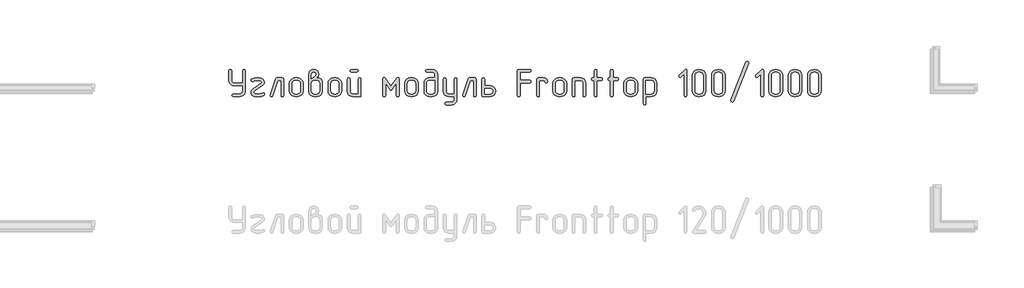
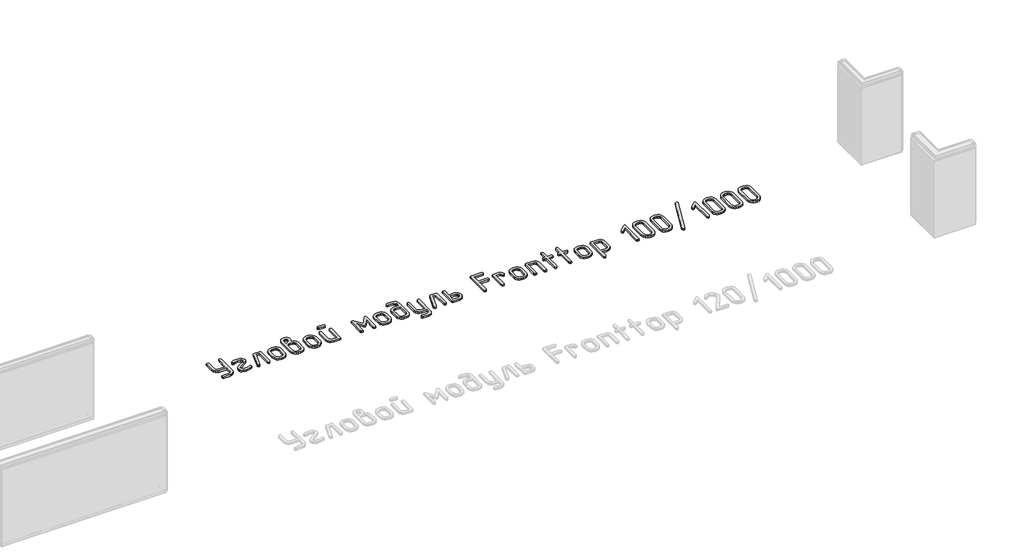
# One storey, part 34 of 37: 1 proxy.
"""IFC4 building model written with IfcOpenShell, lengths in millimetres."""

from ifc_helpers import new_model, si_unit, origin, origin_with_axes, place, context, project, spatial, polyline, outline, extrude, element, save

model = new_model("IFC4")

# Units and contexts
model_context = context("Model", 3, world=origin())
ifc_project = project(units=[si_unit("LENGTHUNIT", "METRE", prefix="MILLI")], contexts=[model_context])

# Site, building, storey
site = spatial("IfcSite", under=ifc_project)
building = spatial("IfcBuilding", under=site)
storey = spatial("IfcBuildingStorey", under=building, Name="Этаж 01", Elevation=0.0)

# Proxy
placement = place(None, origin())
element("IfcBuildingElementProxy", 1, Name="300 мм ГОСТ 2.304", ObjectType="300 мм ГОСТ 2.304", at=placement, inside=storey, context=model_context, shape_type="SweptSolid", body=[
    extrude(outline(polyline([(64282.5947081, -19108.7261154), (64192.9398643, -19108.7261154), (64169.869135, -19104.3522505), (64150.5152523, -19091.2306559), (64137.3936577, -19071.8767732), (64133.0197928, -19048.8060439), (64133.0197928, -18944.2838139), (64137.4124296, -18933.1332743), (64148.3377058, -18928.9659009), (64158.6247356, -18932.9080109), (64163.205092, -18944.2838139), (64163.205092, -19048.8060439), (64165.3357086, -19060.4540402), (64171.7275583, -19070.0183499), (64181.2918679, -19076.4101996), (64192.9398643, -19078.5408162), (64282.5947081, -19078.5408162), (64282.5947081, -18944.2838139), (64286.949801, -18933.1332743), (64297.4620942, -18928.9659009), (64307.9368436, -18932.9080109), (64312.3294804, -18944.2838139), (64312.3294804, -19168.19566), (64307.9556155, -19191.6042844), (64294.8340209, -19211.0707988), (64275.8180333, -19223.8544983), (64252.8599358, -19228.1157314), (64178.0724781, -19228.1157314), (64167.147202, -19223.7606385), (64163.205092, -19213.2483453), (64166.9219385, -19202.736052), (64178.0724781, -19198.3809591), (64252.8599358, -19198.3809591), (64264.2263528, -19196.1940267), (64273.8469783, -19189.6332294), (64280.4077756, -19179.8999722), (64282.5947081, -19168.19566), (64282.5947081, -19108.7261154)])), origin_with_axes(), (0.0, 0.0, 1.0), 20.0),
    extrude(outline(polyline([(64514.9914765, -19214.524838), (64485.4444237, -19225.0746752), (64451.6173658, -19228.5662583), (64430.8180428, -19227.4774851), (64413.0973199, -19224.5866044), (64396.8408093, -19219.4524755), (64384.8643037, -19209.3062353), (64377.4869265, -19195.6496401), (64375.0278008, -19179.984446), (64378.9699108, -19160.7619669), (64391.2467675, -19144.618088), (64486.5331969, -19078.991343), (64491.4139045, -19069.8306304), (64487.5844263, -19060.4071103), (64476.0959915, -19054.0621905), (64442.3815653, -19049.7070976), (64416.2510079, -19052.4290307), (64397.32888, -19060.5948299), (64388.1681673, -19064.1239569), (64377.693418, -19059.5436005), (64373.3007812, -19048.355517), (64379.4579815, -19037.0172579), (64408.0664367, -19024.777945), (64445.0096386, -19020.4228521), (64450.2657853, -19020.4228521), (64479.1370478, -19023.9144352), (64501.85111, -19033.7509382), (64516.7184961, -19049.0313073), (64521.9746427, -19068.9295767), (64517.7134096, -19086.6315276), (64504.9297101, -19102.193476), (64409.5681929, -19168.19566), (64404.3871341, -19179.6090069), (64408.1039806, -19189.8584928), (64417.9029396, -19195.7528858), (64434.3096259, -19197.5174493), (64451.9928049, -19198.3809591), (64478.4612575, -19196.2034127), (64501.0251441, -19187.8686659), (64508.4588371, -19186.1416463), (64519.1588499, -19190.7220026), (64523.3262233, -19201.9100861), (64521.2425366, -19209.1936036), (64514.9914765, -19214.524838)])), origin_with_axes(), (0.0, 0.0, 1.0), 20.0),
    extrude(outline(polyline([(64734.3229662, -19213.2483453), (64730.1555928, -19224.3988849), (64719.45558, -19228.1157314), (64708.9432868, -19224.1736215), (64704.5881939, -19213.2483453), (64704.5881939, -19048.8060439), (64670.0478018, -19048.8060439), (64614.0322964, -19218.0539651), (64608.5884303, -19225.4876581), (64600.5164908, -19228.1157314), (64589.7789341, -19224.1736215), (64585.1985778, -19213.6988721), (64586.0996315, -19208.4427255), (64645.1186493, -19029.133038), (64650.4498837, -19021.5867132), (64659.5355086, -19019.0712716), (64719.45558, -19019.0712716), (64730.6061197, -19022.7881181), (64734.3229662, -19033.9386577), (64734.3229662, -19213.2483453)])), origin_with_axes(), (0.0, 0.0, 1.0), 20.0),
    extrude(outline(polyline([(64945.7702359, -19162.4889865), (64940.9646162, -19187.9812976), (64926.5477569, -19209.3437792), (64905.5231704, -19223.4227434), (64880.143491, -19228.1157314), (64862.1975047, -19228.1157314), (64836.7615094, -19223.4227434), (64815.4177998, -19209.3437792), (64801.0009405, -19187.9812976), (64796.1953207, -19162.4889865), (64796.1953207, -19084.6980165), (64801.0009405, -19059.5436005), (64815.4177998, -19038.2937506), (64837.1744924, -19023.8768913), (64862.1975047, -19019.0712716), (64880.143491, -19019.0712716), (64905.288521, -19023.8862773), (64926.510213, -19038.3312945), (64940.9552302, -19059.5529865), (64945.7702359, -19084.6980165), (64945.7702359, -19162.4889865)]), holes=[polyline([(64916.0354636, -19162.4889865), (64916.0354636, -19084.6980165), (64913.4073903, -19070.9194036), (64905.5231704, -19059.3183371), (64893.9221039, -19051.4341172), (64880.143491, -19048.8060439), (64862.1975047, -19048.8060439), (64848.4282777, -19051.4341172), (64836.8553692, -19059.3183371), (64828.9993072, -19070.9194036), (64826.3806199, -19084.6980165), (64826.3806199, -19162.4889865), (64828.9993072, -19176.2675994), (64836.8553692, -19187.8686659), (64848.4282777, -19195.7528858), (64862.1975047, -19198.3809591), (64880.143491, -19198.3809591), (64893.9221039, -19195.7528858), (64905.5231704, -19187.8686659), (64913.4073903, -19176.2675994), (64916.0354636, -19162.4889865)])]), origin_with_axes(), (0.0, 0.0, 1.0), 20.0),
    extrude(outline(polyline([(65097.2974342, -19019.9723253), (65122.7897453, -19024.2335584), (65142.3501195, -19037.0172579), (65153.5006592, -19055.057104), (65157.2175057, -19078.5408162), (65157.2175057, -19168.19566), (65152.8436408, -19191.6042844), (65139.7220462, -19211.0707988), (65120.5934269, -19223.8544983), (65097.2974342, -19228.1157314), (65067.5626619, -19228.1157314), (65044.4919326, -19223.8544983), (65025.1380499, -19211.0707988), (65012.0164553, -19191.6042844), (65007.6425905, -19168.19566), (65007.6425905, -18983.2543867), (65011.9038236, -18960.3901489), (65024.6875231, -18942.5567943), (65041.4133325, -18932.3636243), (65061.8559884, -18928.9659009), (65081.9607493, -18932.3636243), (65098.573927, -18942.5567943), (65111.0760472, -18960.2775172), (65115.2434206, -18982.8038599), (65111.0760472, -19004.8421318), (65097.2974342, -19019.9723253)]), holes=[polyline([(65127.4827334, -19168.19566), (65127.4827334, -19078.5408162), (65125.295801, -19067.1743991), (65118.7350037, -19057.5537736), (65109.0017464, -19050.9929763), (65097.2974342, -19048.8060439), (65067.5626619, -19048.8060439), (65055.9146656, -19050.9929763), (65046.3503559, -19057.5537736), (65039.9585062, -19067.1743991), (65037.8278896, -19078.5408162), (65037.8278896, -19168.19566), (65039.9585062, -19179.8999722), (65046.3503559, -19189.6332294), (65055.9146656, -19196.1940267), (65067.5626619, -19198.3809591), (65097.2974342, -19198.3809591), (65109.0017464, -19196.1940267), (65118.7350037, -19189.6332294), (65125.295801, -19179.8999722), (65127.4827334, -19168.19566)]), polyline([(65037.8278896, -19029.133038), (65044.8110558, -19025.0032085), (65050.0672025, -19021.248818), (65060.1289688, -19014.0403884), (65067.5626619, -19008.5589783), (65079.8019748, -18997.671246), (65085.5086482, -18983.2543867), (65083.7065408, -18973.1644624), (65078.3002186, -18965.7213834), (65070.4723145, -18961.1316411), (65061.4054616, -18959.601727), (65052.4512404, -18961.1316411), (65044.8110558, -18965.7213834), (65039.5736812, -18973.1644624), (65037.8278896, -18983.2543867), (65037.8278896, -19029.133038)])]), origin_with_axes(), (0.0, 0.0, 1.0), 20.0),
    extrude(outline(polyline([(65368.6647755, -19162.4889865), (65363.8591557, -19187.9812976), (65349.4422964, -19209.3437792), (65328.4177099, -19223.4227434), (65303.0380305, -19228.1157314), (65285.0920442, -19228.1157314), (65259.6560489, -19223.4227434), (65238.3123393, -19209.3437792), (65223.89548, -19187.9812976), (65219.0898602, -19162.4889865), (65219.0898602, -19084.6980165), (65223.89548, -19059.5436005), (65238.3123393, -19038.2937506), (65260.0690319, -19023.8768913), (65285.0920442, -19019.0712716), (65303.0380305, -19019.0712716), (65328.1830605, -19023.8862773), (65349.4047525, -19038.3312945), (65363.8497697, -19059.5529865), (65368.6647755, -19084.6980165), (65368.6647755, -19162.4889865)]), holes=[polyline([(65338.9300032, -19162.4889865), (65338.9300032, -19084.6980165), (65336.3019298, -19070.9194036), (65328.4177099, -19059.3183371), (65316.8166434, -19051.4341172), (65303.0380305, -19048.8060439), (65285.0920442, -19048.8060439), (65271.3228172, -19051.4341172), (65259.7499087, -19059.3183371), (65251.8938467, -19070.9194036), (65249.2751594, -19084.6980165), (65249.2751594, -19162.4889865), (65251.8938467, -19176.2675994), (65259.7499087, -19187.8686659), (65271.3228172, -19195.7528858), (65285.0920442, -19198.3809591), (65303.0380305, -19198.3809591), (65316.8166434, -19195.7528858), (65328.4177099, -19187.8686659), (65336.3019298, -19176.2675994), (65338.9300032, -19162.4889865)])]), origin_with_axes(), (0.0, 0.0, 1.0), 20.0),
    extrude(outline(polyline([(65535.5098868, -18959.1512001), (65475.5898153, -18959.1512001), (65464.6645391, -18954.7961072), (65460.7224291, -18944.2838139), (65464.4392757, -18933.5838012), (65475.5898153, -18928.9659009), (65535.5098868, -18928.9659009), (65546.6604264, -18933.3585378), (65550.3772729, -18944.2838139), (65546.4351629, -18954.5708438), (65535.5098868, -18959.1512001)])), origin_with_axes(), (0.0, 0.0, 1.0), 20.0),
    extrude(outline(polyline([(65580.1120452, -19213.2483453), (65576.3951987, -19224.3988849), (65565.2446591, -19228.1157314), (65490.4572014, -19228.1157314), (65467.3864722, -19223.8544983), (65448.0325894, -19211.0707988), (65434.9109948, -19191.6042844), (65430.53713, -19168.19566), (65430.53713, -19033.9386577), (65434.9297668, -19023.0133815), (65445.855043, -19019.0712716), (65456.1420728, -19022.7881181), (65460.7224291, -19033.9386577), (65460.7224291, -19168.19566), (65462.8530457, -19179.8999722), (65469.2448954, -19189.6332294), (65478.8092051, -19196.1940267), (65490.4572014, -19198.3809591), (65550.3772729, -19198.3809591), (65550.3772729, -19033.9386577), (65554.7323658, -19023.0133815), (65565.2446591, -19019.0712716), (65575.7194084, -19022.7881181), (65580.1120452, -19033.9386577), (65580.1120452, -19213.2483453)])), origin_with_axes(), (0.0, 0.0, 1.0), 20.0),
    extrude(outline(polyline([(65999.1020187, -19213.2483453), (65994.7093818, -19224.1736215), (65984.2346325, -19228.1157314), (65973.4970758, -19224.3988849), (65969.3672464, -19213.2483453), (65969.3672464, -19080.2678358), (65921.6864877, -19147.2461613), (65915.5480594, -19153.1030104), (65909.4471749, -19155.0552934), (65903.121027, -19153.1030104), (65897.207862, -19147.2461613), (65849.9776303, -19080.2678358), (65849.9776303, -19213.2483453), (65845.3972739, -19224.1736215), (65835.1102441, -19228.1157314), (65823.9597045, -19224.3988849), (65819.7923311, -19213.2483453), (65819.7923311, -19033.9386577), (65823.5091776, -19021.0235546), (65832.9326977, -19016.4431983), (65840.666742, -19018.6395167), (65847.349557, -19025.2284719), (65909.4471749, -19112.6306814), (65971.9953197, -19025.2284719), (65978.7532225, -19018.6395167), (65985.9616521, -19016.4431983), (65995.3851721, -19021.0235546), (65999.1020187, -19033.9386577), (65999.1020187, -19213.2483453)])), origin_with_axes(), (0.0, 0.0, 1.0), 20.0),
    extrude(outline(polyline([(66209.6482347, -19162.4889865), (66204.8426149, -19187.9812976), (66190.4257556, -19209.3437792), (66169.4011692, -19223.4227434), (66144.0214898, -19228.1157314), (66126.0755035, -19228.1157314), (66100.6395082, -19223.4227434), (66079.2957985, -19209.3437792), (66064.8789392, -19187.9812976), (66060.0733195, -19162.4889865), (66060.0733195, -19084.6980165), (66064.8789392, -19059.5436005), (66079.2957985, -19038.2937506), (66101.0524911, -19023.8768913), (66126.0755035, -19019.0712716), (66144.0214898, -19019.0712716), (66169.1665198, -19023.8862773), (66190.3882117, -19038.3312945), (66204.833229, -19059.5529865), (66209.6482347, -19084.6980165), (66209.6482347, -19162.4889865)]), holes=[polyline([(66179.9134624, -19162.4889865), (66179.9134624, -19084.6980165), (66177.2853891, -19070.9194036), (66169.4011692, -19059.3183371), (66157.8001027, -19051.4341172), (66144.0214898, -19048.8060439), (66126.0755035, -19048.8060439), (66112.3062765, -19051.4341172), (66100.733368, -19059.3183371), (66092.877306, -19070.9194036), (66090.2586186, -19084.6980165), (66090.2586186, -19162.4889865), (66092.877306, -19176.2675994), (66100.733368, -19187.8686659), (66112.3062765, -19195.7528858), (66126.0755035, -19198.3809591), (66144.0214898, -19198.3809591), (66157.8001027, -19195.7528858), (66169.4011692, -19187.8686659), (66177.2853891, -19176.2675994), (66179.9134624, -19162.4889865)])]), origin_with_axes(), (0.0, 0.0, 1.0), 20.0),
    extrude(outline(polyline([(66391.3607322, -19019.0712716), (66391.3607322, -18988.8859724), (66389.1737997, -18977.2379761), (66382.6130024, -18967.6736664), (66372.8797452, -18961.2818167), (66361.175433, -18959.1512001), (66301.7058884, -18959.1512001), (66290.7806122, -18954.7961072), (66286.8385022, -18944.2838139), (66290.5553488, -18933.5838012), (66301.7058884, -18928.9659009), (66361.175433, -18928.9659009), (66384.4714257, -18933.3397658), (66403.600045, -18946.4613604), (66416.7216396, -18965.8152431), (66421.0955045, -18988.8859724), (66421.0955045, -19168.19566), (66416.7216396, -19191.6042844), (66403.600045, -19211.0707988), (66384.4714257, -19223.8544983), (66361.175433, -19228.1157314), (66331.4406607, -19228.1157314), (66308.3699314, -19223.8544983), (66289.0160487, -19211.0707988), (66275.8944541, -19191.6042844), (66271.5205892, -19168.19566), (66271.5205892, -19078.5408162), (66275.8944541, -19055.8079821), (66289.0160487, -19036.566731), (66308.3699314, -19023.4451364), (66331.4406607, -19019.0712716), (66391.3607322, -19019.0712716)]), holes=[polyline([(66391.3607322, -19048.8060439), (66331.4406607, -19048.8060439), (66319.7926643, -19050.9929763), (66310.2283547, -19057.5537736), (66303.836505, -19067.1743991), (66301.7058884, -19078.5408162), (66301.7058884, -19168.19566), (66303.836505, -19179.8999722), (66310.2283547, -19189.6332294), (66319.7926643, -19196.1940267), (66331.4406607, -19198.3809591), (66361.175433, -19198.3809591), (66372.8797452, -19196.1940267), (66382.6130024, -19189.6332294), (66389.1737997, -19179.8999722), (66391.3607322, -19168.19566), (66391.3607322, -19048.8060439)])]), origin_with_axes(), (0.0, 0.0, 1.0), 20.0),
    extrude(outline(polyline([(66602.8080019, -19228.1157314), (66542.8879304, -19228.1157314), (66519.8172012, -19223.8544983), (66500.4633184, -19211.0707988), (66487.3417238, -19191.6042844), (66482.967859, -19168.19566), (66482.967859, -19033.9386577), (66487.3604958, -19023.0133815), (66498.285772, -19019.0712716), (66508.5728018, -19022.7881181), (66513.1531581, -19033.9386577), (66513.1531581, -19168.19566), (66515.2837747, -19179.8999722), (66521.6756244, -19189.6332294), (66531.2399341, -19196.1940267), (66542.8879304, -19198.3809591), (66602.8080019, -19198.3809591), (66602.8080019, -19033.9386577), (66607.1630948, -19023.0133815), (66617.6753881, -19019.0712716), (66628.1501374, -19022.7881181), (66632.5427742, -19033.9386577), (66632.5427742, -19257.8505038), (66628.2815411, -19281.1464965), (66615.4978416, -19300.2751158), (66596.0313272, -19313.3967104), (66572.6227028, -19317.7705752), (66513.1531581, -19317.7705752), (66502.2278819, -19313.3779384), (66498.285772, -19302.9031891), (66502.0026185, -19292.3908958), (66513.1531581, -19288.0358029), (66572.6227028, -19288.0358029), (66584.327015, -19285.8488705), (66594.0602722, -19279.2880732), (66600.6210695, -19269.554816), (66602.8080019, -19257.8505038), (66602.8080019, -19228.1157314)])), origin_with_axes(), (0.0, 0.0, 1.0), 20.0),
    extrude(outline(polyline([(66843.990044, -19213.2483453), (66839.8226706, -19224.3988849), (66829.1226578, -19228.1157314), (66818.6103646, -19224.1736215), (66814.2552717, -19213.2483453), (66814.2552717, -19048.8060439), (66779.7148796, -19048.8060439), (66723.6993742, -19218.0539651), (66718.255508, -19225.4876581), (66710.1835686, -19228.1157314), (66699.4460119, -19224.1736215), (66694.8656556, -19213.6988721), (66695.7667093, -19208.4427255), (66754.7857271, -19029.133038), (66760.1169615, -19021.5867132), (66769.2025864, -19019.0712716), (66829.1226578, -19019.0712716), (66840.2731974, -19022.7881181), (66843.990044, -19033.9386577), (66843.990044, -19213.2483453)])), origin_with_axes(), (0.0, 0.0, 1.0), 20.0),
    extrude(outline(polyline([(66936.0476976, -19108.7261154), (66995.5172423, -19108.7261154), (67021.0095534, -19113.3252436), (67040.5699276, -19127.1226285), (67051.7204672, -19145.4628258), (67055.4373137, -19168.19566), (67051.8330989, -19190.9472661), (67041.0204544, -19209.3437792), (67021.1221851, -19223.4227434), (66995.5172423, -19228.1157314), (66921.1803115, -19228.1157314), (66909.6918767, -19224.3988849), (66905.8623985, -19213.2483453), (66905.8623985, -19033.9386577), (66910.2550353, -19023.0133815), (66921.1803115, -19019.0712716), (66931.4673413, -19022.7881181), (66936.0476976, -19033.9386577), (66936.0476976, -19108.7261154)]), holes=[polyline([(66936.0476976, -19138.4608877), (66936.0476976, -19198.3809591), (66995.5172423, -19198.3809591), (67008.3009417, -19196.1377108), (67017.8183215, -19189.407966), (67023.7314864, -19179.6183929), (67025.7025414, -19168.19566), (67023.8441182, -19157.1577521), (67018.2688483, -19147.6216003), (67008.6388369, -19140.7510658), (66995.5172423, -19138.4608877), (66936.0476976, -19138.4608877)])]), origin_with_axes(), (0.0, 0.0, 1.0), 20.0),
    extrude(outline(polyline([(67325.3028988, -19048.355517), (67429.8251287, -19048.355517), (67440.9756683, -19052.5228904), (67444.6925149, -19063.2229032), (67440.7504049, -19073.9604598), (67429.8251287, -19078.5408162), (67325.3028988, -19078.5408162), (67325.3028988, -19213.2483453), (67321.1355254, -19224.3988849), (67310.4355126, -19228.1157314), (67299.697956, -19224.1736215), (67295.1175996, -19213.2483453), (67295.1175996, -18944.2838139), (67298.9470779, -18932.7953792), (67310.4355126, -18928.9659009), (67429.8251287, -18928.9659009), (67440.9756683, -18933.3585378), (67444.6925149, -18944.2838139), (67440.7504049, -18954.5708438), (67429.8251287, -18959.1512001), (67325.3028988, -18959.1512001), (67325.3028988, -19048.355517)])), origin_with_axes(), (0.0, 0.0, 1.0), 20.0),
    extrude(outline(polyline([(67626.4050123, -19063.67343), (67622.2376389, -19074.8239697), (67611.5376262, -19078.5408162), (67600.8000695, -19074.5987062), (67596.2197132, -19063.67343), (67592.0523398, -19053.1986807), (67581.352327, -19048.8060439), (67536.7501685, -19048.8060439), (67536.7501685, -19213.2483453), (67532.5827951, -19224.3988849), (67521.8827824, -19228.1157314), (67511.1452257, -19224.1736215), (67506.5648694, -19213.2483453), (67506.5648694, -19033.9386577), (67510.3943476, -19022.7881181), (67521.8827824, -19019.0712716), (67581.352327, -19019.0712716), (67598.8477865, -19022.5628547), (67613.3021897, -19032.1740942), (67622.9134292, -19046.403234), (67626.4050123, -19063.67343)])), origin_with_axes(), (0.0, 0.0, 1.0), 20.0),
    extrude(outline(polyline([(67833.947716, -19162.4889865), (67829.1420963, -19187.9812976), (67814.7252369, -19209.3437792), (67793.7006505, -19223.4227434), (67768.3209711, -19228.1157314), (67750.3749848, -19228.1157314), (67724.9389895, -19223.4227434), (67703.5952798, -19209.3437792), (67689.1784205, -19187.9812976), (67684.3728008, -19162.4889865), (67684.3728008, -19084.6980165), (67689.1784205, -19059.5436005), (67703.5952798, -19038.2937506), (67725.3519725, -19023.8768913), (67750.3749848, -19019.0712716), (67768.3209711, -19019.0712716), (67793.4660011, -19023.8862773), (67814.687693, -19038.3312945), (67829.1327103, -19059.5529865), (67833.947716, -19084.6980165), (67833.947716, -19162.4889865)]), holes=[polyline([(67804.2129437, -19162.4889865), (67804.2129437, -19084.6980165), (67801.5848704, -19070.9194036), (67793.7006505, -19059.3183371), (67782.099584, -19051.4341172), (67768.3209711, -19048.8060439), (67750.3749848, -19048.8060439), (67736.6057578, -19051.4341172), (67725.0328493, -19059.3183371), (67717.1767873, -19070.9194036), (67714.5580999, -19084.6980165), (67714.5580999, -19162.4889865), (67717.1767873, -19176.2675994), (67725.0328493, -19187.8686659), (67736.6057578, -19195.7528858), (67750.3749848, -19198.3809591), (67768.3209711, -19198.3809591), (67782.099584, -19195.7528858), (67793.7006505, -19187.8686659), (67801.5848704, -19176.2675994), (67804.2129437, -19162.4889865)])]), origin_with_axes(), (0.0, 0.0, 1.0), 20.0),
    extrude(outline(polyline([(68045.3949858, -19213.2483453), (68041.2276124, -19224.3988849), (68030.5275996, -19228.1157314), (68020.0153064, -19224.1736215), (68015.6602135, -19213.2483453), (68015.6602135, -19078.5408162), (68013.473281, -19067.1743991), (68006.9124837, -19057.5537736), (67997.1792265, -19050.9929763), (67985.4749143, -19048.8060439), (67926.0053697, -19048.8060439), (67926.0053697, -19213.2483453), (67921.8379963, -19224.3988849), (67911.1379835, -19228.1157314), (67900.4004269, -19224.1736215), (67895.8200705, -19213.2483453), (67895.8200705, -19033.9386577), (67899.6495488, -19022.7881181), (67911.1379835, -19019.0712716), (67985.4749143, -19019.0712716), (68008.770907, -19023.3325047), (68027.8995263, -19036.1162042), (68041.0211209, -19055.4700869), (68045.3949858, -19078.5408162), (68045.3949858, -19213.2483453)])), origin_with_axes(), (0.0, 0.0, 1.0), 20.0),
    extrude(outline(polyline([(68167.1874117, -19019.0712716), (68212.2400971, -19019.0712716), (68223.3906367, -19023.238645), (68227.1074832, -19033.9386577), (68223.1653733, -19044.2256875), (68212.2400971, -19048.8060439), (68167.1874117, -19048.8060439), (68167.1874117, -19213.2483453), (68163.0200384, -19224.3988849), (68152.3200256, -19228.1157314), (68141.8077324, -19224.1736215), (68137.4526394, -19213.2483453), (68137.4526394, -19048.8060439), (68122.5852533, -19048.8060439), (68111.4347137, -19044.450951), (68107.2673403, -19033.9386577), (68111.2094502, -19023.4639084), (68122.5852533, -19019.0712716), (68137.4526394, -19019.0712716), (68137.4526394, -18944.2838139), (68141.8077324, -18933.1332743), (68152.3200256, -18928.9659009), (68162.7947749, -18932.9080109), (68167.1874117, -18944.2838139), (68167.1874117, -19019.0712716)])), origin_with_axes(), (0.0, 0.0, 1.0), 20.0),
    extrude(outline(polyline([(68344.9953431, -19019.0712716), (68390.0480284, -19019.0712716), (68401.1985681, -19023.238645), (68404.9154146, -19033.9386577), (68400.9733046, -19044.2256875), (68390.0480284, -19048.8060439), (68344.9953431, -19048.8060439), (68344.9953431, -19213.2483453), (68340.8279697, -19224.3988849), (68330.127957, -19228.1157314), (68319.6156637, -19224.1736215), (68315.2605708, -19213.2483453), (68315.2605708, -19048.8060439), (68300.3931847, -19048.8060439), (68289.2426451, -19044.450951), (68285.0752717, -19033.9386577), (68289.0173816, -19023.4639084), (68300.3931847, -19019.0712716), (68315.2605708, -19019.0712716), (68315.2605708, -18944.2838139), (68319.6156637, -18933.1332743), (68330.127957, -18928.9659009), (68340.6027063, -18932.9080109), (68344.9953431, -18944.2838139), (68344.9953431, -19019.0712716)])), origin_with_axes(), (0.0, 0.0, 1.0), 20.0),
    extrude(outline(polyline([(68612.4581183, -19162.4889865), (68607.6524985, -19187.9812976), (68593.2356392, -19209.3437792), (68572.2110527, -19223.4227434), (68546.8313734, -19228.1157314), (68528.885387, -19228.1157314), (68503.4493918, -19223.4227434), (68482.1056821, -19209.3437792), (68467.6888228, -19187.9812976), (68462.883203, -19162.4889865), (68462.883203, -19084.6980165), (68467.6888228, -19059.5436005), (68482.1056821, -19038.2937506), (68503.8623747, -19023.8768913), (68528.885387, -19019.0712716), (68546.8313734, -19019.0712716), (68571.9764033, -19023.8862773), (68593.1980953, -19038.3312945), (68607.6431126, -19059.5529865), (68612.4581183, -19084.6980165), (68612.4581183, -19162.4889865)]), holes=[polyline([(68582.723346, -19162.4889865), (68582.723346, -19084.6980165), (68580.0952727, -19070.9194036), (68572.2110527, -19059.3183371), (68560.6099863, -19051.4341172), (68546.8313734, -19048.8060439), (68528.885387, -19048.8060439), (68515.1161601, -19051.4341172), (68503.5432515, -19059.3183371), (68495.6871895, -19070.9194036), (68493.0685022, -19084.6980165), (68493.0685022, -19162.4889865), (68495.6871895, -19176.2675994), (68503.5432515, -19187.8686659), (68515.1161601, -19195.7528858), (68528.885387, -19198.3809591), (68546.8313734, -19198.3809591), (68560.6099863, -19195.7528858), (68572.2110527, -19187.8686659), (68580.0952727, -19176.2675994), (68582.723346, -19162.4889865)])]), origin_with_axes(), (0.0, 0.0, 1.0), 20.0),
    extrude(outline(polyline([(68704.515772, -19228.1157314), (68704.515772, -19302.9031891), (68700.3483986, -19314.0537287), (68689.6483858, -19317.7705752), (68678.9108291, -19313.8284653), (68674.3304728, -19302.9031891), (68674.3304728, -19033.9386577), (68678.1599511, -19022.7881181), (68689.6483858, -19019.0712716), (68763.9853166, -19019.0712716), (68787.2813093, -19023.3325047), (68806.4099286, -19036.1162042), (68819.5315232, -19055.4700869), (68823.9053881, -19078.5408162), (68823.9053881, -19168.19566), (68819.5315232, -19191.6042844), (68806.4099286, -19211.0707988), (68787.2813093, -19223.8544983), (68763.9853166, -19228.1157314), (68704.515772, -19228.1157314)]), holes=[polyline([(68704.515772, -19198.3809591), (68763.9853166, -19198.3809591), (68775.6896288, -19196.1940267), (68785.422886, -19189.6332294), (68791.9836833, -19179.8999722), (68794.1706157, -19168.19566), (68794.1706157, -19078.5408162), (68791.9836833, -19067.1743991), (68785.422886, -19057.5537736), (68775.6896288, -19050.9929763), (68763.9853166, -19048.8060439), (68704.515772, -19048.8060439), (68704.515772, -19198.3809591)])]), origin_with_axes(), (0.0, 0.0, 1.0), 20.0),
    extrude(outline(polyline([(69153.2405177, -19213.2483453), (69149.0731443, -19224.3988849), (69138.3731316, -19228.1157314), (69128.0861018, -19224.1736215), (69123.5057454, -19213.2483453), (69123.5057454, -18980.1757866), (69088.9653533, -19014.2656518), (69078.9035869, -19019.0712716), (69068.1660303, -19014.4909152), (69063.5856739, -19003.7533586), (69068.3912937, -18993.3161531), (69127.8608383, -18933.7715207), (69141.0012049, -18927.2388813), (69149.7489346, -18931.6315182), (69153.2405177, -18944.2838139), (69153.2405177, -19213.2483453)])), origin_with_axes(), (0.0, 0.0, 1.0), 20.0),
    extrude(outline(polyline([(69362.134802, -19162.4889865), (69357.3291822, -19187.9812976), (69342.9123229, -19209.3437792), (69321.8877364, -19223.4227434), (69296.508057, -19228.1157314), (69278.5620707, -19228.1157314), (69253.1260755, -19223.4227434), (69231.7823658, -19209.3437792), (69217.3655065, -19187.9812976), (69212.5598867, -19162.4889865), (69212.5598867, -18995.0431727), (69217.3655065, -18969.8887568), (69231.7823658, -18948.6389069), (69253.313795, -18933.8841524), (69278.5620707, -18928.9659009), (69296.508057, -18928.9659009), (69321.653087, -18933.7809067), (69342.874779, -18948.2259239), (69357.3197962, -18969.5602476), (69362.134802, -18995.0431727), (69362.134802, -19162.4889865)]), holes=[polyline([(69332.4000297, -19162.4889865), (69332.4000297, -18995.0431727), (69329.7719564, -18981.2645598), (69321.8877364, -18969.6634933), (69310.28667, -18961.7792734), (69296.508057, -18959.1512001), (69278.5620707, -18959.1512001), (69264.7928438, -18961.7792734), (69253.2199352, -18969.6634933), (69245.3638732, -18981.2645598), (69242.7451859, -18995.0431727), (69242.7451859, -19162.4889865), (69245.3638732, -19176.2675994), (69253.2199352, -19187.8686659), (69264.7928438, -19195.7528858), (69278.5620707, -19198.3809591), (69296.508057, -19198.3809591), (69310.28667, -19195.7528858), (69321.8877364, -19187.8686659), (69329.7719564, -19176.2675994), (69332.4000297, -19162.4889865)])]), origin_with_axes(), (0.0, 0.0, 1.0), 20.0),
    extrude(outline(polyline([(69573.5820717, -19162.4889865), (69568.776452, -19187.9812976), (69554.3595927, -19209.3437792), (69533.3350062, -19223.4227434), (69507.9553268, -19228.1157314), (69490.0093405, -19228.1157314), (69464.5733452, -19223.4227434), (69443.2296355, -19209.3437792), (69428.8127762, -19187.9812976), (69424.0071565, -19162.4889865), (69424.0071565, -18995.0431727), (69428.8127762, -18969.8887568), (69443.2296355, -18948.6389069), (69464.7610647, -18933.8841524), (69490.0093405, -18928.9659009), (69507.9553268, -18928.9659009), (69533.1003568, -18933.7809067), (69554.3220488, -18948.2259239), (69568.767066, -18969.5602476), (69573.5820717, -18995.0431727), (69573.5820717, -19162.4889865)]), holes=[polyline([(69543.8472994, -19162.4889865), (69543.8472994, -18995.0431727), (69541.2192261, -18981.2645598), (69533.3350062, -18969.6634933), (69521.7339397, -18961.7792734), (69507.9553268, -18959.1512001), (69490.0093405, -18959.1512001), (69476.2401135, -18961.7792734), (69464.667205, -18969.6634933), (69456.811143, -18981.2645598), (69454.1924556, -18995.0431727), (69454.1924556, -19162.4889865), (69456.811143, -19176.2675994), (69464.667205, -19187.8686659), (69476.2401135, -19195.7528858), (69490.0093405, -19198.3809591), (69507.9553268, -19198.3809591), (69521.7339397, -19195.7528858), (69533.3350062, -19187.8686659), (69541.2192261, -19176.2675994), (69543.8472994, -19162.4889865)])]), origin_with_axes(), (0.0, 0.0, 1.0), 20.0),
    extrude(outline(polyline([(69829.1809731, -18859.8851168), (69664.7386717, -19278.4245634), (69659.0695421, -19285.4077296), (69651.2228661, -19288.0358029), (69640.260046, -19283.8684295), (69635.4544262, -19273.1684168), (69636.3554799, -19267.4617433), (69800.7977813, -18848.9973845), (69806.4669109, -18841.9391305), (69814.3135869, -18839.3110572), (69825.276407, -18843.703694), (69830.0820268, -18854.1784433), (69829.1809731, -18859.8851168)])), origin_with_axes(), (0.0, 0.0, 1.0), 20.0),
    extrude(outline(polyline([(69994.223977, -19213.2483453), (69990.0566036, -19224.3988849), (69979.3565908, -19228.1157314), (69969.069561, -19224.1736215), (69964.4892047, -19213.2483453), (69964.4892047, -18980.1757866), (69929.9488126, -19014.2656518), (69919.8870462, -19019.0712716), (69909.1494895, -19014.4909152), (69904.5691332, -19003.7533586), (69909.374753, -18993.3161531), (69968.8442976, -18933.7715207), (69981.9846641, -18927.2388813), (69990.7323939, -18931.6315182), (69994.223977, -18944.2838139), (69994.223977, -19213.2483453)])), origin_with_axes(), (0.0, 0.0, 1.0), 20.0),
    extrude(outline(polyline([(70203.1182612, -19162.4889865), (70198.3126415, -19187.9812976), (70183.8957822, -19209.3437792), (70162.8711957, -19223.4227434), (70137.4915163, -19228.1157314), (70119.54553, -19228.1157314), (70094.1095347, -19223.4227434), (70072.765825, -19209.3437792), (70058.3489657, -19187.9812976), (70053.543346, -19162.4889865), (70053.543346, -18995.0431727), (70058.3489657, -18969.8887568), (70072.765825, -18948.6389069), (70094.2972542, -18933.8841524), (70119.54553, -18928.9659009), (70137.4915163, -18928.9659009), (70162.6365463, -18933.7809067), (70183.8582383, -18948.2259239), (70198.3032555, -18969.5602476), (70203.1182612, -18995.0431727), (70203.1182612, -19162.4889865)]), holes=[polyline([(70173.3834889, -19162.4889865), (70173.3834889, -18995.0431727), (70170.7554156, -18981.2645598), (70162.8711957, -18969.6634933), (70151.2701292, -18961.7792734), (70137.4915163, -18959.1512001), (70119.54553, -18959.1512001), (70105.776303, -18961.7792734), (70094.2033945, -18969.6634933), (70086.3473325, -18981.2645598), (70083.7286451, -18995.0431727), (70083.7286451, -19162.4889865), (70086.3473325, -19176.2675994), (70094.2033945, -19187.8686659), (70105.776303, -19195.7528858), (70119.54553, -19198.3809591), (70137.4915163, -19198.3809591), (70151.2701292, -19195.7528858), (70162.8711957, -19187.8686659), (70170.7554156, -19176.2675994), (70173.3834889, -19162.4889865)])]), origin_with_axes(), (0.0, 0.0, 1.0), 20.0),
    extrude(outline(polyline([(70414.565531, -19162.4889865), (70409.7599112, -19187.9812976), (70395.3430519, -19209.3437792), (70374.3184654, -19223.4227434), (70348.938786, -19228.1157314), (70330.9927997, -19228.1157314), (70305.5568045, -19223.4227434), (70284.2130948, -19209.3437792), (70269.7962355, -19187.9812976), (70264.9906157, -19162.4889865), (70264.9906157, -18995.0431727), (70269.7962355, -18969.8887568), (70284.2130948, -18948.6389069), (70305.744524, -18933.8841524), (70330.9927997, -18928.9659009), (70348.938786, -18928.9659009), (70374.083816, -18933.7809067), (70395.305508, -18948.2259239), (70409.7505252, -18969.5602476), (70414.565531, -18995.0431727), (70414.565531, -19162.4889865)]), holes=[polyline([(70384.8307587, -19162.4889865), (70384.8307587, -18995.0431727), (70382.2026854, -18981.2645598), (70374.3184654, -18969.6634933), (70362.717399, -18961.7792734), (70348.938786, -18959.1512001), (70330.9927997, -18959.1512001), (70317.2235728, -18961.7792734), (70305.6506642, -18969.6634933), (70297.7946022, -18981.2645598), (70295.1759149, -18995.0431727), (70295.1759149, -19162.4889865), (70297.7946022, -19176.2675994), (70305.6506642, -19187.8686659), (70317.2235728, -19195.7528858), (70330.9927997, -19198.3809591), (70348.938786, -19198.3809591), (70362.717399, -19195.7528858), (70374.3184654, -19187.8686659), (70382.2026854, -19176.2675994), (70384.8307587, -19162.4889865)])]), origin_with_axes(), (0.0, 0.0, 1.0), 20.0),
    extrude(outline(polyline([(70626.0128007, -19162.4889865), (70621.207181, -19187.9812976), (70606.7903217, -19209.3437792), (70585.7657352, -19223.4227434), (70560.3860558, -19228.1157314), (70542.4400695, -19228.1157314), (70517.0040742, -19223.4227434), (70495.6603646, -19209.3437792), (70481.2435053, -19187.9812976), (70476.4378855, -19162.4889865), (70476.4378855, -18995.0431727), (70481.2435053, -18969.8887568), (70495.6603646, -18948.6389069), (70517.1917937, -18933.8841524), (70542.4400695, -18928.9659009), (70560.3860558, -18928.9659009), (70585.5310858, -18933.7809067), (70606.7527778, -18948.2259239), (70621.197795, -18969.5602476), (70626.0128007, -18995.0431727), (70626.0128007, -19162.4889865)]), holes=[polyline([(70596.2780284, -19162.4889865), (70596.2780284, -18995.0431727), (70593.6499551, -18981.2645598), (70585.7657352, -18969.6634933), (70574.1646687, -18961.7792734), (70560.3860558, -18959.1512001), (70542.4400695, -18959.1512001), (70528.6708425, -18961.7792734), (70517.097934, -18969.6634933), (70509.241872, -18981.2645598), (70506.6231847, -18995.0431727), (70506.6231847, -19162.4889865), (70509.241872, -19176.2675994), (70517.097934, -19187.8686659), (70528.6708425, -19195.7528858), (70542.4400695, -19198.3809591), (70560.3860558, -19198.3809591), (70574.1646687, -19195.7528858), (70585.7657352, -19187.8686659), (70593.6499551, -19176.2675994), (70596.2780284, -19162.4889865)])]), origin_with_axes(), (0.0, 0.0, 1.0), 20.0),
])

save(model, "model.ifc")
